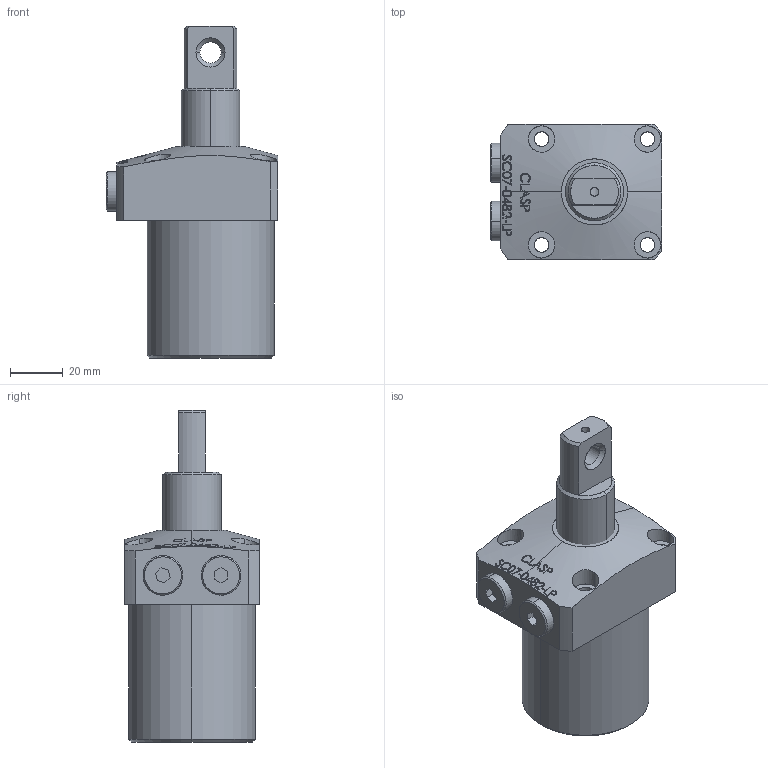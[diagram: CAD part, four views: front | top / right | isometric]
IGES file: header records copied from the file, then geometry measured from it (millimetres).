
Start section: SolidWorks IGES file using analytic representation for surfaces
Global section: file name: D:\karuppas\Clasp\3D model\SWING CYLINDER\Top Mounting swing cylinder-P type\SC07-0482-LP\SC07-0482-LP.IGS; native system: SolidWorks 2017; preprocessor: SolidWorks 2017; author: pc; date: 220708.222417; units: millimetre
Bounding box: 65 x 51 x 125.5 mm (x, y, z)
Surface area: 29648.4 mm2 (no closed solid volume)
Topology: 0 solids, 0 shells, 323 faces, 5661 edges, 5661 vertices
Faces by surface type: bspline 244, revolution 79
